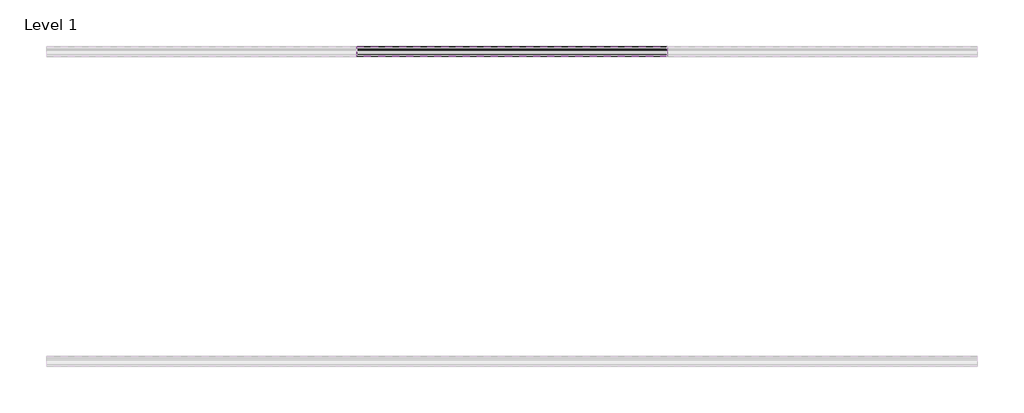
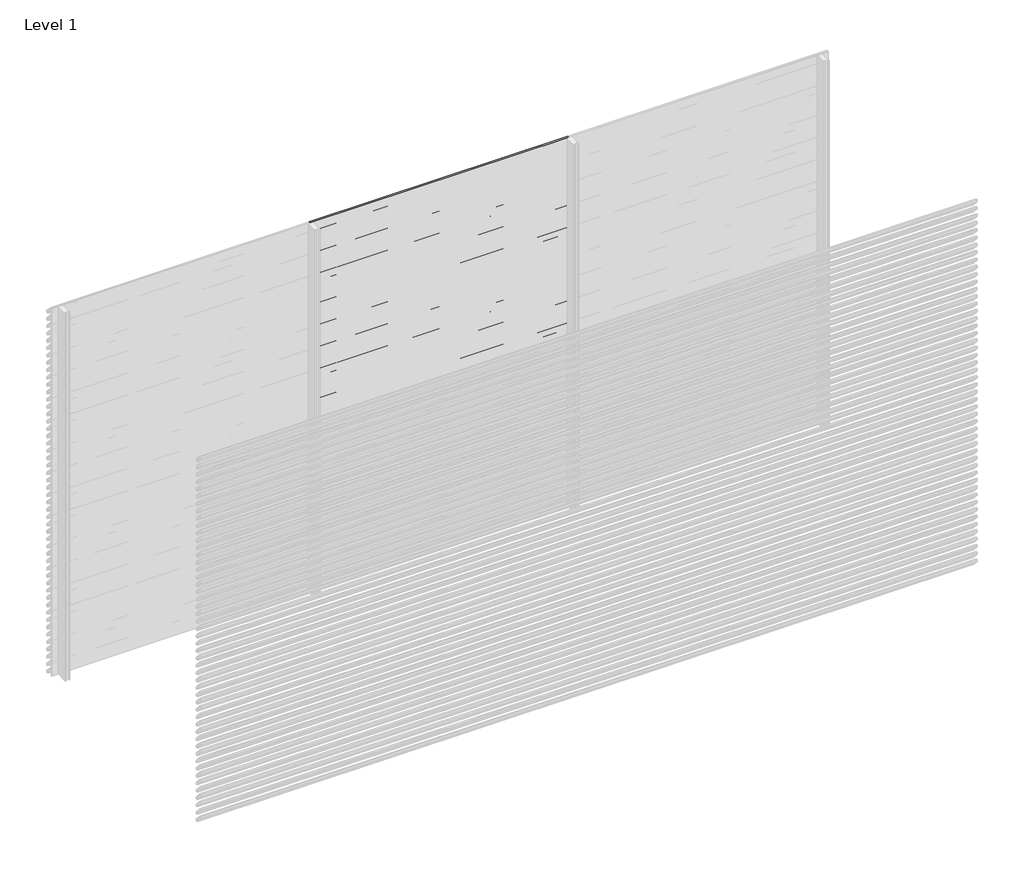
# One storey, part 111 of 153: 33 proxies.
"""IFC4 building model written with IfcOpenShell, lengths in millimetres."""

from ifc_helpers import new_model, si_unit, point, frame, frame_2d, origin, place, context, project, spatial, polyline, circle_curve, trimmed, segment, composite_curve, outline, extrude, element, save

model = new_model("IFC4")

# Units and contexts
model_context = context("Model", 3, world=origin())
ifc_project = project(units=[si_unit("LENGTHUNIT", "METRE", prefix="MILLI")], contexts=[model_context])

# Site, building, storey
site = spatial("IfcSite", under=ifc_project)
building = spatial("IfcBuilding", under=site)
storey = spatial("IfcBuildingStorey", under=building, Name="Level 1", Elevation=0.0)

# Proxies
placement = place(None, origin())
element("IfcBuildingElementProxy", 1, Name="Wall Sweeps", at=placement, inside=storey, context=model_context, shape_type="SweptSolid", body=[
    extrude(outline(composite_curve([segment(polyline([(51485.0540136, 3000.0), (51499.874191, 2998.7034025), (51549.0540136, 2945.0102749), (51549.0540136, 2933.6108187)]), True, "CONTINUOUS"), segment(trimmed(circle_curve(frame_2d((51545.7883652, 2933.897153)), 3.2781774), [point((51549.0540136, 2933.6108187))], [point((51546.4639442, 2930.6893438))], False, "CARTESIAN"), True, "CONTINUOUS"), segment(polyline([(51546.4639442, 2930.6893438), (51534.1895723, 2931.6282758), (51485.0540136, 2985.2730773), (51485.0540136, 3000.0)]), True, "CONTINUOUS")], self_intersect=False), holes=[composite_curve([segment(polyline([(51499.1621773, 2997.2599659), (51486.5540136, 2998.3630372), (51486.5540136, 2985.856213), (51534.8952036, 2933.0786805), (51546.3312542, 2932.2038762)]), True, "CONTINUOUS"), segment(trimmed(circle_curve(frame_2d((51545.7883652, 2933.897153)), 1.7781774), [point((51546.3312542, 2932.2038762))], [point((51547.5540136, 2933.6864389))], True, "CARTESIAN"), True, "CONTINUOUS"), segment(polyline([(51547.5540136, 2933.6864389), (51547.5540136, 2944.4271392), (51499.1621773, 2997.2599659)]), True, "CONTINUOUS")], self_intersect=False)]), frame((46966.6208098, 0.0, 0.0), z_axis=(1.0, 0.0, 0.0), x_axis=(0.0, 1.0, 0.0)), (0.0, 0.0, 1.0), 1999.9999998),
])
element("IfcBuildingElementProxy", 2, Name="Wall Sweeps", at=placement, inside=storey, context=model_context, shape_type="SweptSolid", body=[
    extrude(outline(composite_curve([segment(polyline([(51485.0540136, 2940.0), (51499.874191, 2938.7034025), (51549.0540136, 2885.0102749), (51549.0540136, 2873.6108187)]), True, "CONTINUOUS"), segment(trimmed(circle_curve(frame_2d((51545.7883652, 2873.897153)), 3.2781774), [point((51549.0540136, 2873.6108187))], [point((51546.4639442, 2870.6893438))], False, "CARTESIAN"), True, "CONTINUOUS"), segment(polyline([(51546.4639442, 2870.6893438), (51534.1895723, 2871.6282758), (51485.0540136, 2925.2730773), (51485.0540136, 2940.0)]), True, "CONTINUOUS")], self_intersect=False), holes=[composite_curve([segment(polyline([(51499.1621773, 2937.2599659), (51486.5540136, 2938.3630372), (51486.5540136, 2925.856213), (51534.8952036, 2873.0786805), (51546.3312542, 2872.2038762)]), True, "CONTINUOUS"), segment(trimmed(circle_curve(frame_2d((51545.7883652, 2873.897153)), 1.7781774), [point((51546.3312542, 2872.2038762))], [point((51547.5540136, 2873.6864389))], True, "CARTESIAN"), True, "CONTINUOUS"), segment(polyline([(51547.5540136, 2873.6864389), (51547.5540136, 2884.4271392), (51499.1621773, 2937.2599659)]), True, "CONTINUOUS")], self_intersect=False)]), frame((46966.6208098, 0.0, 0.0), z_axis=(1.0, 0.0, 0.0), x_axis=(0.0, 1.0, 0.0)), (0.0, 0.0, 1.0), 1999.9999998),
])
element("IfcBuildingElementProxy", 3, Name="Wall Sweeps", at=placement, inside=storey, context=model_context, shape_type="SweptSolid", body=[
    extrude(outline(composite_curve([segment(polyline([(51485.0540136, 2880.0), (51499.874191, 2878.7034025), (51549.0540136, 2825.0102749), (51549.0540136, 2813.6108187)]), True, "CONTINUOUS"), segment(trimmed(circle_curve(frame_2d((51545.7883652, 2813.897153)), 3.2781774), [point((51549.0540136, 2813.6108187))], [point((51546.4639442, 2810.6893438))], False, "CARTESIAN"), True, "CONTINUOUS"), segment(polyline([(51546.4639442, 2810.6893438), (51534.1895723, 2811.6282758), (51485.0540136, 2865.2730773), (51485.0540136, 2880.0)]), True, "CONTINUOUS")], self_intersect=False), holes=[composite_curve([segment(polyline([(51499.1621773, 2877.2599659), (51486.5540136, 2878.3630372), (51486.5540136, 2865.856213), (51534.8952036, 2813.0786805), (51546.3312542, 2812.2038762)]), True, "CONTINUOUS"), segment(trimmed(circle_curve(frame_2d((51545.7883652, 2813.897153)), 1.7781774), [point((51546.3312542, 2812.2038762))], [point((51547.5540136, 2813.6864389))], True, "CARTESIAN"), True, "CONTINUOUS"), segment(polyline([(51547.5540136, 2813.6864389), (51547.5540136, 2824.4271392), (51499.1621773, 2877.2599659)]), True, "CONTINUOUS")], self_intersect=False)]), frame((46966.6208098, 0.0, 0.0), z_axis=(1.0, 0.0, 0.0), x_axis=(0.0, 1.0, 0.0)), (0.0, 0.0, 1.0), 1999.9999998),
])
element("IfcBuildingElementProxy", 4, Name="Wall Sweeps", at=placement, inside=storey, context=model_context, shape_type="SweptSolid", body=[
    extrude(outline(composite_curve([segment(polyline([(51485.0540136, 2820.0), (51499.874191, 2818.7034025), (51549.0540136, 2765.0102749), (51549.0540136, 2753.6108187)]), True, "CONTINUOUS"), segment(trimmed(circle_curve(frame_2d((51545.7883652, 2753.897153)), 3.2781774), [point((51549.0540136, 2753.6108187))], [point((51546.4639442, 2750.6893438))], False, "CARTESIAN"), True, "CONTINUOUS"), segment(polyline([(51546.4639442, 2750.6893438), (51534.1895723, 2751.6282758), (51485.0540136, 2805.2730773), (51485.0540136, 2820.0)]), True, "CONTINUOUS")], self_intersect=False), holes=[composite_curve([segment(polyline([(51499.1621773, 2817.2599659), (51486.5540136, 2818.3630372), (51486.5540136, 2805.856213), (51534.8952036, 2753.0786805), (51546.3312542, 2752.2038762)]), True, "CONTINUOUS"), segment(trimmed(circle_curve(frame_2d((51545.7883652, 2753.897153)), 1.7781774), [point((51546.3312542, 2752.2038762))], [point((51547.5540136, 2753.6864389))], True, "CARTESIAN"), True, "CONTINUOUS"), segment(polyline([(51547.5540136, 2753.6864389), (51547.5540136, 2764.4271392), (51499.1621773, 2817.2599659)]), True, "CONTINUOUS")], self_intersect=False)]), frame((46966.6208098, 0.0, 0.0), z_axis=(1.0, 0.0, 0.0), x_axis=(0.0, 1.0, 0.0)), (0.0, 0.0, 1.0), 1999.9999998),
])
element("IfcBuildingElementProxy", 5, Name="Wall Sweeps", at=placement, inside=storey, context=model_context, shape_type="SweptSolid", body=[
    extrude(outline(composite_curve([segment(polyline([(51485.0540136, 2760.0), (51499.874191, 2758.7034025), (51549.0540136, 2705.0102749), (51549.0540136, 2693.6108187)]), True, "CONTINUOUS"), segment(trimmed(circle_curve(frame_2d((51545.7883652, 2693.897153)), 3.2781774), [point((51549.0540136, 2693.6108187))], [point((51546.4639442, 2690.6893438))], False, "CARTESIAN"), True, "CONTINUOUS"), segment(polyline([(51546.4639442, 2690.6893438), (51534.1895723, 2691.6282758), (51485.0540136, 2745.2730773), (51485.0540136, 2760.0)]), True, "CONTINUOUS")], self_intersect=False), holes=[composite_curve([segment(polyline([(51499.1621773, 2757.2599659), (51486.5540136, 2758.3630372), (51486.5540136, 2745.856213), (51534.8952036, 2693.0786805), (51546.3312542, 2692.2038762)]), True, "CONTINUOUS"), segment(trimmed(circle_curve(frame_2d((51545.7883652, 2693.897153)), 1.7781774), [point((51546.3312542, 2692.2038762))], [point((51547.5540136, 2693.6864389))], True, "CARTESIAN"), True, "CONTINUOUS"), segment(polyline([(51547.5540136, 2693.6864389), (51547.5540136, 2704.4271392), (51499.1621773, 2757.2599659)]), True, "CONTINUOUS")], self_intersect=False)]), frame((46966.6208098, 0.0, 0.0), z_axis=(1.0, 0.0, 0.0), x_axis=(0.0, 1.0, 0.0)), (0.0, 0.0, 1.0), 1999.9999998),
])
element("IfcBuildingElementProxy", 6, Name="Wall Sweeps", at=placement, inside=storey, context=model_context, shape_type="SweptSolid", body=[
    extrude(outline(composite_curve([segment(polyline([(51485.0540136, 2700.0), (51499.874191, 2698.7034025), (51549.0540136, 2645.0102749), (51549.0540136, 2633.6108187)]), True, "CONTINUOUS"), segment(trimmed(circle_curve(frame_2d((51545.7883652, 2633.897153)), 3.2781774), [point((51549.0540136, 2633.6108187))], [point((51546.4639442, 2630.6893438))], False, "CARTESIAN"), True, "CONTINUOUS"), segment(polyline([(51546.4639442, 2630.6893438), (51534.1895723, 2631.6282758), (51485.0540136, 2685.2730773), (51485.0540136, 2700.0)]), True, "CONTINUOUS")], self_intersect=False), holes=[composite_curve([segment(polyline([(51499.1621773, 2697.2599659), (51486.5540136, 2698.3630372), (51486.5540136, 2685.856213), (51534.8952036, 2633.0786805), (51546.3312542, 2632.2038762)]), True, "CONTINUOUS"), segment(trimmed(circle_curve(frame_2d((51545.7883652, 2633.897153)), 1.7781774), [point((51546.3312542, 2632.2038762))], [point((51547.5540136, 2633.6864389))], True, "CARTESIAN"), True, "CONTINUOUS"), segment(polyline([(51547.5540136, 2633.6864389), (51547.5540136, 2644.4271392), (51499.1621773, 2697.2599659)]), True, "CONTINUOUS")], self_intersect=False)]), frame((46966.6208098, 0.0, 0.0), z_axis=(1.0, 0.0, 0.0), x_axis=(0.0, 1.0, 0.0)), (0.0, 0.0, 1.0), 1999.9999998),
])
element("IfcBuildingElementProxy", 7, Name="Wall Sweeps", at=placement, inside=storey, context=model_context, shape_type="SweptSolid", body=[
    extrude(outline(composite_curve([segment(polyline([(51485.0540136, 2640.0), (51499.874191, 2638.7034025), (51549.0540136, 2585.0102749), (51549.0540136, 2573.6108187)]), True, "CONTINUOUS"), segment(trimmed(circle_curve(frame_2d((51545.7883652, 2573.897153)), 3.2781774), [point((51549.0540136, 2573.6108187))], [point((51546.4639442, 2570.6893438))], False, "CARTESIAN"), True, "CONTINUOUS"), segment(polyline([(51546.4639442, 2570.6893438), (51534.1895723, 2571.6282758), (51485.0540136, 2625.2730773), (51485.0540136, 2640.0)]), True, "CONTINUOUS")], self_intersect=False), holes=[composite_curve([segment(polyline([(51499.1621773, 2637.2599659), (51486.5540136, 2638.3630372), (51486.5540136, 2625.856213), (51534.8952036, 2573.0786805), (51546.3312542, 2572.2038762)]), True, "CONTINUOUS"), segment(trimmed(circle_curve(frame_2d((51545.7883652, 2573.897153)), 1.7781774), [point((51546.3312542, 2572.2038762))], [point((51547.5540136, 2573.6864389))], True, "CARTESIAN"), True, "CONTINUOUS"), segment(polyline([(51547.5540136, 2573.6864389), (51547.5540136, 2584.4271392), (51499.1621773, 2637.2599659)]), True, "CONTINUOUS")], self_intersect=False)]), frame((46966.6208098, 0.0, 0.0), z_axis=(1.0, 0.0, 0.0), x_axis=(0.0, 1.0, 0.0)), (0.0, 0.0, 1.0), 1999.9999998),
])
element("IfcBuildingElementProxy", 8, Name="Wall Sweeps", at=placement, inside=storey, context=model_context, shape_type="SweptSolid", body=[
    extrude(outline(composite_curve([segment(polyline([(51485.0540136, 2580.0), (51499.874191, 2578.7034025), (51549.0540136, 2525.0102749), (51549.0540136, 2513.6108187)]), True, "CONTINUOUS"), segment(trimmed(circle_curve(frame_2d((51545.7883652, 2513.897153)), 3.2781774), [point((51549.0540136, 2513.6108187))], [point((51546.4639442, 2510.6893438))], False, "CARTESIAN"), True, "CONTINUOUS"), segment(polyline([(51546.4639442, 2510.6893438), (51534.1895723, 2511.6282758), (51485.0540136, 2565.2730773), (51485.0540136, 2580.0)]), True, "CONTINUOUS")], self_intersect=False), holes=[composite_curve([segment(polyline([(51499.1621773, 2577.2599659), (51486.5540136, 2578.3630372), (51486.5540136, 2565.856213), (51534.8952036, 2513.0786805), (51546.3312542, 2512.2038762)]), True, "CONTINUOUS"), segment(trimmed(circle_curve(frame_2d((51545.7883652, 2513.897153)), 1.7781774), [point((51546.3312542, 2512.2038762))], [point((51547.5540136, 2513.6864389))], True, "CARTESIAN"), True, "CONTINUOUS"), segment(polyline([(51547.5540136, 2513.6864389), (51547.5540136, 2524.4271392), (51499.1621773, 2577.2599659)]), True, "CONTINUOUS")], self_intersect=False)]), frame((46966.6208098, 0.0, 0.0), z_axis=(1.0, 0.0, 0.0), x_axis=(0.0, 1.0, 0.0)), (0.0, 0.0, 1.0), 1999.9999998),
])
element("IfcBuildingElementProxy", 9, Name="Wall Sweeps", at=placement, inside=storey, context=model_context, shape_type="SweptSolid", body=[
    extrude(outline(composite_curve([segment(polyline([(51485.0540136, 2520.0), (51499.874191, 2518.7034025), (51549.0540136, 2465.0102749), (51549.0540136, 2453.6108187)]), True, "CONTINUOUS"), segment(trimmed(circle_curve(frame_2d((51545.7883652, 2453.897153)), 3.2781774), [point((51549.0540136, 2453.6108187))], [point((51546.4639442, 2450.6893438))], False, "CARTESIAN"), True, "CONTINUOUS"), segment(polyline([(51546.4639442, 2450.6893438), (51534.1895723, 2451.6282758), (51485.0540136, 2505.2730773), (51485.0540136, 2520.0)]), True, "CONTINUOUS")], self_intersect=False), holes=[composite_curve([segment(polyline([(51499.1621773, 2517.2599659), (51486.5540136, 2518.3630372), (51486.5540136, 2505.856213), (51534.8952036, 2453.0786805), (51546.3312542, 2452.2038762)]), True, "CONTINUOUS"), segment(trimmed(circle_curve(frame_2d((51545.7883652, 2453.897153)), 1.7781774), [point((51546.3312542, 2452.2038762))], [point((51547.5540136, 2453.6864389))], True, "CARTESIAN"), True, "CONTINUOUS"), segment(polyline([(51547.5540136, 2453.6864389), (51547.5540136, 2464.4271392), (51499.1621773, 2517.2599659)]), True, "CONTINUOUS")], self_intersect=False)]), frame((46966.6208098, 0.0, 0.0), z_axis=(1.0, 0.0, 0.0), x_axis=(0.0, 1.0, 0.0)), (0.0, 0.0, 1.0), 1999.9999998),
])
element("IfcBuildingElementProxy", 10, Name="Wall Sweeps", at=placement, inside=storey, context=model_context, shape_type="SweptSolid", body=[
    extrude(outline(composite_curve([segment(polyline([(51485.0540136, 2460.0), (51499.874191, 2458.7034025), (51549.0540136, 2405.0102749), (51549.0540136, 2393.6108187)]), True, "CONTINUOUS"), segment(trimmed(circle_curve(frame_2d((51545.7883652, 2393.897153)), 3.2781774), [point((51549.0540136, 2393.6108187))], [point((51546.4639442, 2390.6893438))], False, "CARTESIAN"), True, "CONTINUOUS"), segment(polyline([(51546.4639442, 2390.6893438), (51534.1895723, 2391.6282758), (51485.0540136, 2445.2730773), (51485.0540136, 2460.0)]), True, "CONTINUOUS")], self_intersect=False), holes=[composite_curve([segment(polyline([(51499.1621773, 2457.2599659), (51486.5540136, 2458.3630372), (51486.5540136, 2445.856213), (51534.8952036, 2393.0786805), (51546.3312542, 2392.2038762)]), True, "CONTINUOUS"), segment(trimmed(circle_curve(frame_2d((51545.7883652, 2393.897153)), 1.7781774), [point((51546.3312542, 2392.2038762))], [point((51547.5540136, 2393.6864389))], True, "CARTESIAN"), True, "CONTINUOUS"), segment(polyline([(51547.5540136, 2393.6864389), (51547.5540136, 2404.4271392), (51499.1621773, 2457.2599659)]), True, "CONTINUOUS")], self_intersect=False)]), frame((46966.6208098, 0.0, 0.0), z_axis=(1.0, 0.0, 0.0), x_axis=(0.0, 1.0, 0.0)), (0.0, 0.0, 1.0), 1999.9999998),
])
element("IfcBuildingElementProxy", 11, Name="Wall Sweeps", at=placement, inside=storey, context=model_context, shape_type="SweptSolid", body=[
    extrude(outline(composite_curve([segment(polyline([(51485.0540136, 2400.0), (51499.874191, 2398.7034025), (51549.0540136, 2345.0102749), (51549.0540136, 2333.6108187)]), True, "CONTINUOUS"), segment(trimmed(circle_curve(frame_2d((51545.7883652, 2333.897153)), 3.2781774), [point((51549.0540136, 2333.6108187))], [point((51546.4639442, 2330.6893438))], False, "CARTESIAN"), True, "CONTINUOUS"), segment(polyline([(51546.4639442, 2330.6893438), (51534.1895723, 2331.6282758), (51485.0540136, 2385.2730773), (51485.0540136, 2400.0)]), True, "CONTINUOUS")], self_intersect=False), holes=[composite_curve([segment(polyline([(51499.1621773, 2397.2599659), (51486.5540136, 2398.3630372), (51486.5540136, 2385.856213), (51534.8952036, 2333.0786805), (51546.3312542, 2332.2038762)]), True, "CONTINUOUS"), segment(trimmed(circle_curve(frame_2d((51545.7883652, 2333.897153)), 1.7781774), [point((51546.3312542, 2332.2038762))], [point((51547.5540136, 2333.6864389))], True, "CARTESIAN"), True, "CONTINUOUS"), segment(polyline([(51547.5540136, 2333.6864389), (51547.5540136, 2344.4271392), (51499.1621773, 2397.2599659)]), True, "CONTINUOUS")], self_intersect=False)]), frame((46966.6208098, 0.0, 0.0), z_axis=(1.0, 0.0, 0.0), x_axis=(0.0, 1.0, 0.0)), (0.0, 0.0, 1.0), 1999.9999998),
])
element("IfcBuildingElementProxy", 12, Name="Wall Sweeps", at=placement, inside=storey, context=model_context, shape_type="SweptSolid", body=[
    extrude(outline(composite_curve([segment(polyline([(51485.0540136, 2340.0), (51499.874191, 2338.7034025), (51549.0540136, 2285.0102749), (51549.0540136, 2273.6108187)]), True, "CONTINUOUS"), segment(trimmed(circle_curve(frame_2d((51545.7883652, 2273.897153)), 3.2781774), [point((51549.0540136, 2273.6108187))], [point((51546.4639442, 2270.6893438))], False, "CARTESIAN"), True, "CONTINUOUS"), segment(polyline([(51546.4639442, 2270.6893438), (51534.1895723, 2271.6282758), (51485.0540136, 2325.2730773), (51485.0540136, 2340.0)]), True, "CONTINUOUS")], self_intersect=False), holes=[composite_curve([segment(polyline([(51499.1621773, 2337.2599659), (51486.5540136, 2338.3630372), (51486.5540136, 2325.856213), (51534.8952036, 2273.0786805), (51546.3312542, 2272.2038762)]), True, "CONTINUOUS"), segment(trimmed(circle_curve(frame_2d((51545.7883652, 2273.897153)), 1.7781774), [point((51546.3312542, 2272.2038762))], [point((51547.5540136, 2273.6864389))], True, "CARTESIAN"), True, "CONTINUOUS"), segment(polyline([(51547.5540136, 2273.6864389), (51547.5540136, 2284.4271392), (51499.1621773, 2337.2599659)]), True, "CONTINUOUS")], self_intersect=False)]), frame((46966.6208098, 0.0, 0.0), z_axis=(1.0, 0.0, 0.0), x_axis=(0.0, 1.0, 0.0)), (0.0, 0.0, 1.0), 1999.9999998),
])
element("IfcBuildingElementProxy", 13, Name="Wall Sweeps", at=placement, inside=storey, context=model_context, shape_type="SweptSolid", body=[
    extrude(outline(composite_curve([segment(polyline([(51485.0540136, 2280.0), (51499.874191, 2278.7034025), (51549.0540136, 2225.0102749), (51549.0540136, 2213.6108187)]), True, "CONTINUOUS"), segment(trimmed(circle_curve(frame_2d((51545.7883652, 2213.897153)), 3.2781774), [point((51549.0540136, 2213.6108187))], [point((51546.4639442, 2210.6893438))], False, "CARTESIAN"), True, "CONTINUOUS"), segment(polyline([(51546.4639442, 2210.6893438), (51534.1895723, 2211.6282758), (51485.0540136, 2265.2730773), (51485.0540136, 2280.0)]), True, "CONTINUOUS")], self_intersect=False), holes=[composite_curve([segment(polyline([(51499.1621773, 2277.2599659), (51486.5540136, 2278.3630372), (51486.5540136, 2265.856213), (51534.8952036, 2213.0786805), (51546.3312542, 2212.2038762)]), True, "CONTINUOUS"), segment(trimmed(circle_curve(frame_2d((51545.7883652, 2213.897153)), 1.7781774), [point((51546.3312542, 2212.2038762))], [point((51547.5540136, 2213.6864389))], True, "CARTESIAN"), True, "CONTINUOUS"), segment(polyline([(51547.5540136, 2213.6864389), (51547.5540136, 2224.4271392), (51499.1621773, 2277.2599659)]), True, "CONTINUOUS")], self_intersect=False)]), frame((46966.6208098, 0.0, 0.0), z_axis=(1.0, 0.0, 0.0), x_axis=(0.0, 1.0, 0.0)), (0.0, 0.0, 1.0), 1999.9999998),
])
element("IfcBuildingElementProxy", 14, Name="Wall Sweeps", at=placement, inside=storey, context=model_context, shape_type="SweptSolid", body=[
    extrude(outline(composite_curve([segment(polyline([(51485.0540136, 2220.0), (51499.874191, 2218.7034025), (51549.0540136, 2165.0102749), (51549.0540136, 2153.6108187)]), True, "CONTINUOUS"), segment(trimmed(circle_curve(frame_2d((51545.7883652, 2153.897153)), 3.2781774), [point((51549.0540136, 2153.6108187))], [point((51546.4639442, 2150.6893438))], False, "CARTESIAN"), True, "CONTINUOUS"), segment(polyline([(51546.4639442, 2150.6893438), (51534.1895723, 2151.6282758), (51485.0540136, 2205.2730773), (51485.0540136, 2220.0)]), True, "CONTINUOUS")], self_intersect=False), holes=[composite_curve([segment(polyline([(51499.1621773, 2217.2599659), (51486.5540136, 2218.3630372), (51486.5540136, 2205.856213), (51534.8952036, 2153.0786805), (51546.3312542, 2152.2038762)]), True, "CONTINUOUS"), segment(trimmed(circle_curve(frame_2d((51545.7883652, 2153.897153)), 1.7781774), [point((51546.3312542, 2152.2038762))], [point((51547.5540136, 2153.6864389))], True, "CARTESIAN"), True, "CONTINUOUS"), segment(polyline([(51547.5540136, 2153.6864389), (51547.5540136, 2164.4271392), (51499.1621773, 2217.2599659)]), True, "CONTINUOUS")], self_intersect=False)]), frame((46966.6208098, 0.0, 0.0), z_axis=(1.0, 0.0, 0.0), x_axis=(0.0, 1.0, 0.0)), (0.0, 0.0, 1.0), 1999.9999998),
])
element("IfcBuildingElementProxy", 15, Name="Wall Sweeps", at=placement, inside=storey, context=model_context, shape_type="SweptSolid", body=[
    extrude(outline(composite_curve([segment(polyline([(51485.0540136, 2160.0), (51499.874191, 2158.7034025), (51549.0540136, 2105.0102749), (51549.0540136, 2093.6108187)]), True, "CONTINUOUS"), segment(trimmed(circle_curve(frame_2d((51545.7883652, 2093.897153)), 3.2781774), [point((51549.0540136, 2093.6108187))], [point((51546.4639442, 2090.6893438))], False, "CARTESIAN"), True, "CONTINUOUS"), segment(polyline([(51546.4639442, 2090.6893438), (51534.1895723, 2091.6282758), (51485.0540136, 2145.2730773), (51485.0540136, 2160.0)]), True, "CONTINUOUS")], self_intersect=False), holes=[composite_curve([segment(polyline([(51499.1621773, 2157.2599659), (51486.5540136, 2158.3630372), (51486.5540136, 2145.856213), (51534.8952036, 2093.0786805), (51546.3312542, 2092.2038762)]), True, "CONTINUOUS"), segment(trimmed(circle_curve(frame_2d((51545.7883652, 2093.897153)), 1.7781774), [point((51546.3312542, 2092.2038762))], [point((51547.5540136, 2093.6864389))], True, "CARTESIAN"), True, "CONTINUOUS"), segment(polyline([(51547.5540136, 2093.6864389), (51547.5540136, 2104.4271392), (51499.1621773, 2157.2599659)]), True, "CONTINUOUS")], self_intersect=False)]), frame((46966.6208098, 0.0, 0.0), z_axis=(1.0, 0.0, 0.0), x_axis=(0.0, 1.0, 0.0)), (0.0, 0.0, 1.0), 1999.9999998),
])
element("IfcBuildingElementProxy", 16, Name="Wall Sweeps", at=placement, inside=storey, context=model_context, shape_type="SweptSolid", body=[
    extrude(outline(composite_curve([segment(polyline([(51485.0540136, 2100.0), (51499.874191, 2098.7034025), (51549.0540136, 2045.0102749), (51549.0540136, 2033.6108187)]), True, "CONTINUOUS"), segment(trimmed(circle_curve(frame_2d((51545.7883652, 2033.897153)), 3.2781774), [point((51549.0540136, 2033.6108187))], [point((51546.4639442, 2030.6893438))], False, "CARTESIAN"), True, "CONTINUOUS"), segment(polyline([(51546.4639442, 2030.6893438), (51534.1895723, 2031.6282758), (51485.0540136, 2085.2730773), (51485.0540136, 2100.0)]), True, "CONTINUOUS")], self_intersect=False), holes=[composite_curve([segment(polyline([(51499.1621773, 2097.2599659), (51486.5540136, 2098.3630372), (51486.5540136, 2085.856213), (51534.8952036, 2033.0786805), (51546.3312542, 2032.2038762)]), True, "CONTINUOUS"), segment(trimmed(circle_curve(frame_2d((51545.7883652, 2033.897153)), 1.7781774), [point((51546.3312542, 2032.2038762))], [point((51547.5540136, 2033.6864389))], True, "CARTESIAN"), True, "CONTINUOUS"), segment(polyline([(51547.5540136, 2033.6864389), (51547.5540136, 2044.4271392), (51499.1621773, 2097.2599659)]), True, "CONTINUOUS")], self_intersect=False)]), frame((46966.6208098, 0.0, 0.0), z_axis=(1.0, 0.0, 0.0), x_axis=(0.0, 1.0, 0.0)), (0.0, 0.0, 1.0), 1999.9999998),
])
element("IfcBuildingElementProxy", 17, Name="Wall Sweeps", at=placement, inside=storey, context=model_context, shape_type="SweptSolid", body=[
    extrude(outline(composite_curve([segment(polyline([(51485.0540136, 2040.0), (51499.874191, 2038.7034025), (51549.0540136, 1985.0102749), (51549.0540136, 1973.6108187)]), True, "CONTINUOUS"), segment(trimmed(circle_curve(frame_2d((51545.7883652, 1973.897153)), 3.2781774), [point((51549.0540136, 1973.6108187))], [point((51546.4639442, 1970.6893438))], False, "CARTESIAN"), True, "CONTINUOUS"), segment(polyline([(51546.4639442, 1970.6893438), (51534.1895723, 1971.6282758), (51485.0540136, 2025.2730773), (51485.0540136, 2040.0)]), True, "CONTINUOUS")], self_intersect=False), holes=[composite_curve([segment(polyline([(51499.1621773, 2037.2599659), (51486.5540136, 2038.3630372), (51486.5540136, 2025.856213), (51534.8952036, 1973.0786805), (51546.3312542, 1972.2038762)]), True, "CONTINUOUS"), segment(trimmed(circle_curve(frame_2d((51545.7883652, 1973.897153)), 1.7781774), [point((51546.3312542, 1972.2038762))], [point((51547.5540136, 1973.6864389))], True, "CARTESIAN"), True, "CONTINUOUS"), segment(polyline([(51547.5540136, 1973.6864389), (51547.5540136, 1984.4271392), (51499.1621773, 2037.2599659)]), True, "CONTINUOUS")], self_intersect=False)]), frame((46966.6208098, 0.0, 0.0), z_axis=(1.0, 0.0, 0.0), x_axis=(0.0, 1.0, 0.0)), (0.0, 0.0, 1.0), 1999.9999998),
])
element("IfcBuildingElementProxy", 18, Name="Wall Sweeps", at=placement, inside=storey, context=model_context, shape_type="SweptSolid", body=[
    extrude(outline(composite_curve([segment(polyline([(51485.0540136, 1980.0), (51499.874191, 1978.7034025), (51549.0540136, 1925.0102749), (51549.0540136, 1913.6108187)]), True, "CONTINUOUS"), segment(trimmed(circle_curve(frame_2d((51545.7883652, 1913.897153)), 3.2781774), [point((51549.0540136, 1913.6108187))], [point((51546.4639442, 1910.6893438))], False, "CARTESIAN"), True, "CONTINUOUS"), segment(polyline([(51546.4639442, 1910.6893438), (51534.1895723, 1911.6282758), (51485.0540136, 1965.2730773), (51485.0540136, 1980.0)]), True, "CONTINUOUS")], self_intersect=False), holes=[composite_curve([segment(polyline([(51499.1621773, 1977.2599659), (51486.5540136, 1978.3630372), (51486.5540136, 1965.856213), (51534.8952036, 1913.0786805), (51546.3312542, 1912.2038762)]), True, "CONTINUOUS"), segment(trimmed(circle_curve(frame_2d((51545.7883652, 1913.897153)), 1.7781774), [point((51546.3312542, 1912.2038762))], [point((51547.5540136, 1913.6864389))], True, "CARTESIAN"), True, "CONTINUOUS"), segment(polyline([(51547.5540136, 1913.6864389), (51547.5540136, 1924.4271392), (51499.1621773, 1977.2599659)]), True, "CONTINUOUS")], self_intersect=False)]), frame((46966.6208098, 0.0, 0.0), z_axis=(1.0, 0.0, 0.0), x_axis=(0.0, 1.0, 0.0)), (0.0, 0.0, 1.0), 1999.9999998),
])
element("IfcBuildingElementProxy", 19, Name="Wall Sweeps", at=placement, inside=storey, context=model_context, shape_type="SweptSolid", body=[
    extrude(outline(composite_curve([segment(polyline([(51485.0540136, 1920.0), (51499.874191, 1918.7034025), (51549.0540136, 1865.0102749), (51549.0540136, 1853.6108187)]), True, "CONTINUOUS"), segment(trimmed(circle_curve(frame_2d((51545.7883652, 1853.897153)), 3.2781774), [point((51549.0540136, 1853.6108187))], [point((51546.4639442, 1850.6893438))], False, "CARTESIAN"), True, "CONTINUOUS"), segment(polyline([(51546.4639442, 1850.6893438), (51534.1895723, 1851.6282758), (51485.0540136, 1905.2730773), (51485.0540136, 1920.0)]), True, "CONTINUOUS")], self_intersect=False), holes=[composite_curve([segment(polyline([(51499.1621773, 1917.2599659), (51486.5540136, 1918.3630372), (51486.5540136, 1905.856213), (51534.8952036, 1853.0786805), (51546.3312542, 1852.2038762)]), True, "CONTINUOUS"), segment(trimmed(circle_curve(frame_2d((51545.7883652, 1853.897153)), 1.7781774), [point((51546.3312542, 1852.2038762))], [point((51547.5540136, 1853.6864389))], True, "CARTESIAN"), True, "CONTINUOUS"), segment(polyline([(51547.5540136, 1853.6864389), (51547.5540136, 1864.4271392), (51499.1621773, 1917.2599659)]), True, "CONTINUOUS")], self_intersect=False)]), frame((46966.6208098, 0.0, 0.0), z_axis=(1.0, 0.0, 0.0), x_axis=(0.0, 1.0, 0.0)), (0.0, 0.0, 1.0), 1999.9999998),
])
element("IfcBuildingElementProxy", 20, Name="Wall Sweeps", at=placement, inside=storey, context=model_context, shape_type="SweptSolid", body=[
    extrude(outline(composite_curve([segment(polyline([(51485.0540136, 1860.0), (51499.874191, 1858.7034025), (51549.0540136, 1805.0102749), (51549.0540136, 1793.6108187)]), True, "CONTINUOUS"), segment(trimmed(circle_curve(frame_2d((51545.7883652, 1793.897153)), 3.2781774), [point((51549.0540136, 1793.6108187))], [point((51546.4639442, 1790.6893438))], False, "CARTESIAN"), True, "CONTINUOUS"), segment(polyline([(51546.4639442, 1790.6893438), (51534.1895723, 1791.6282758), (51485.0540136, 1845.2730773), (51485.0540136, 1860.0)]), True, "CONTINUOUS")], self_intersect=False), holes=[composite_curve([segment(polyline([(51499.1621773, 1857.2599659), (51486.5540136, 1858.3630372), (51486.5540136, 1845.856213), (51534.8952036, 1793.0786805), (51546.3312542, 1792.2038762)]), True, "CONTINUOUS"), segment(trimmed(circle_curve(frame_2d((51545.7883652, 1793.897153)), 1.7781774), [point((51546.3312542, 1792.2038762))], [point((51547.5540136, 1793.6864389))], True, "CARTESIAN"), True, "CONTINUOUS"), segment(polyline([(51547.5540136, 1793.6864389), (51547.5540136, 1804.4271392), (51499.1621773, 1857.2599659)]), True, "CONTINUOUS")], self_intersect=False)]), frame((46966.6208098, 0.0, 0.0), z_axis=(1.0, 0.0, 0.0), x_axis=(0.0, 1.0, 0.0)), (0.0, 0.0, 1.0), 1999.9999998),
])
element("IfcBuildingElementProxy", 21, Name="Wall Sweeps", at=placement, inside=storey, context=model_context, shape_type="SweptSolid", body=[
    extrude(outline(composite_curve([segment(polyline([(51485.0540136, 1800.0), (51499.874191, 1798.7034025), (51549.0540136, 1745.0102749), (51549.0540136, 1733.6108187)]), True, "CONTINUOUS"), segment(trimmed(circle_curve(frame_2d((51545.7883652, 1733.897153)), 3.2781774), [point((51549.0540136, 1733.6108187))], [point((51546.4639442, 1730.6893438))], False, "CARTESIAN"), True, "CONTINUOUS"), segment(polyline([(51546.4639442, 1730.6893438), (51534.1895723, 1731.6282758), (51485.0540136, 1785.2730773), (51485.0540136, 1800.0)]), True, "CONTINUOUS")], self_intersect=False), holes=[composite_curve([segment(polyline([(51499.1621773, 1797.2599659), (51486.5540136, 1798.3630372), (51486.5540136, 1785.856213), (51534.8952036, 1733.0786805), (51546.3312542, 1732.2038762)]), True, "CONTINUOUS"), segment(trimmed(circle_curve(frame_2d((51545.7883652, 1733.897153)), 1.7781774), [point((51546.3312542, 1732.2038762))], [point((51547.5540136, 1733.6864389))], True, "CARTESIAN"), True, "CONTINUOUS"), segment(polyline([(51547.5540136, 1733.6864389), (51547.5540136, 1744.4271392), (51499.1621773, 1797.2599659)]), True, "CONTINUOUS")], self_intersect=False)]), frame((46966.6208098, 0.0, 0.0), z_axis=(1.0, 0.0, 0.0), x_axis=(0.0, 1.0, 0.0)), (0.0, 0.0, 1.0), 1999.9999998),
])
element("IfcBuildingElementProxy", 22, Name="Wall Sweeps", at=placement, inside=storey, context=model_context, shape_type="SweptSolid", body=[
    extrude(outline(composite_curve([segment(polyline([(51485.0540136, 1740.0), (51499.874191, 1738.7034025), (51549.0540136, 1685.0102749), (51549.0540136, 1673.6108187)]), True, "CONTINUOUS"), segment(trimmed(circle_curve(frame_2d((51545.7883652, 1673.897153)), 3.2781774), [point((51549.0540136, 1673.6108187))], [point((51546.4639442, 1670.6893438))], False, "CARTESIAN"), True, "CONTINUOUS"), segment(polyline([(51546.4639442, 1670.6893438), (51534.1895723, 1671.6282758), (51485.0540136, 1725.2730773), (51485.0540136, 1740.0)]), True, "CONTINUOUS")], self_intersect=False), holes=[composite_curve([segment(polyline([(51499.1621773, 1737.2599659), (51486.5540136, 1738.3630372), (51486.5540136, 1725.856213), (51534.8952036, 1673.0786805), (51546.3312542, 1672.2038762)]), True, "CONTINUOUS"), segment(trimmed(circle_curve(frame_2d((51545.7883652, 1673.897153)), 1.7781774), [point((51546.3312542, 1672.2038762))], [point((51547.5540136, 1673.6864389))], True, "CARTESIAN"), True, "CONTINUOUS"), segment(polyline([(51547.5540136, 1673.6864389), (51547.5540136, 1684.4271392), (51499.1621773, 1737.2599659)]), True, "CONTINUOUS")], self_intersect=False)]), frame((46966.6208098, 0.0, 0.0), z_axis=(1.0, 0.0, 0.0), x_axis=(0.0, 1.0, 0.0)), (0.0, 0.0, 1.0), 1999.9999998),
])
element("IfcBuildingElementProxy", 23, Name="Wall Sweeps", at=placement, inside=storey, context=model_context, shape_type="SweptSolid", body=[
    extrude(outline(composite_curve([segment(polyline([(51485.0540136, 1680.0), (51499.874191, 1678.7034025), (51549.0540136, 1625.0102749), (51549.0540136, 1613.6108187)]), True, "CONTINUOUS"), segment(trimmed(circle_curve(frame_2d((51545.7883652, 1613.897153)), 3.2781774), [point((51549.0540136, 1613.6108187))], [point((51546.4639442, 1610.6893438))], False, "CARTESIAN"), True, "CONTINUOUS"), segment(polyline([(51546.4639442, 1610.6893438), (51534.1895723, 1611.6282758), (51485.0540136, 1665.2730773), (51485.0540136, 1680.0)]), True, "CONTINUOUS")], self_intersect=False), holes=[composite_curve([segment(polyline([(51499.1621773, 1677.2599659), (51486.5540136, 1678.3630372), (51486.5540136, 1665.856213), (51534.8952036, 1613.0786805), (51546.3312542, 1612.2038762)]), True, "CONTINUOUS"), segment(trimmed(circle_curve(frame_2d((51545.7883652, 1613.897153)), 1.7781774), [point((51546.3312542, 1612.2038762))], [point((51547.5540136, 1613.6864389))], True, "CARTESIAN"), True, "CONTINUOUS"), segment(polyline([(51547.5540136, 1613.6864389), (51547.5540136, 1624.4271392), (51499.1621773, 1677.2599659)]), True, "CONTINUOUS")], self_intersect=False)]), frame((46966.6208098, 0.0, 0.0), z_axis=(1.0, 0.0, 0.0), x_axis=(0.0, 1.0, 0.0)), (0.0, 0.0, 1.0), 1999.9999998),
])
element("IfcBuildingElementProxy", 24, Name="Wall Sweeps", at=placement, inside=storey, context=model_context, shape_type="SweptSolid", body=[
    extrude(outline(composite_curve([segment(polyline([(51485.0540136, 1620.0), (51499.874191, 1618.7034025), (51549.0540136, 1565.0102749), (51549.0540136, 1553.6108187)]), True, "CONTINUOUS"), segment(trimmed(circle_curve(frame_2d((51545.7883652, 1553.897153)), 3.2781774), [point((51549.0540136, 1553.6108187))], [point((51546.4639442, 1550.6893438))], False, "CARTESIAN"), True, "CONTINUOUS"), segment(polyline([(51546.4639442, 1550.6893438), (51534.1895723, 1551.6282758), (51485.0540136, 1605.2730773), (51485.0540136, 1620.0)]), True, "CONTINUOUS")], self_intersect=False), holes=[composite_curve([segment(polyline([(51499.1621773, 1617.2599659), (51486.5540136, 1618.3630372), (51486.5540136, 1605.856213), (51534.8952036, 1553.0786805), (51546.3312542, 1552.2038762)]), True, "CONTINUOUS"), segment(trimmed(circle_curve(frame_2d((51545.7883652, 1553.897153)), 1.7781774), [point((51546.3312542, 1552.2038762))], [point((51547.5540136, 1553.6864389))], True, "CARTESIAN"), True, "CONTINUOUS"), segment(polyline([(51547.5540136, 1553.6864389), (51547.5540136, 1564.4271392), (51499.1621773, 1617.2599659)]), True, "CONTINUOUS")], self_intersect=False)]), frame((46966.6208098, 0.0, 0.0), z_axis=(1.0, 0.0, 0.0), x_axis=(0.0, 1.0, 0.0)), (0.0, 0.0, 1.0), 1999.9999998),
])
element("IfcBuildingElementProxy", 25, Name="Wall Sweeps", at=placement, inside=storey, context=model_context, shape_type="SweptSolid", body=[
    extrude(outline(composite_curve([segment(polyline([(51485.0540136, 1560.0), (51499.874191, 1558.7034025), (51549.0540136, 1505.0102749), (51549.0540136, 1493.6108187)]), True, "CONTINUOUS"), segment(trimmed(circle_curve(frame_2d((51545.7883652, 1493.897153)), 3.2781774), [point((51549.0540136, 1493.6108187))], [point((51546.4639442, 1490.6893438))], False, "CARTESIAN"), True, "CONTINUOUS"), segment(polyline([(51546.4639442, 1490.6893438), (51534.1895723, 1491.6282758), (51485.0540136, 1545.2730773), (51485.0540136, 1560.0)]), True, "CONTINUOUS")], self_intersect=False), holes=[composite_curve([segment(polyline([(51499.1621773, 1557.2599659), (51486.5540136, 1558.3630372), (51486.5540136, 1545.856213), (51534.8952036, 1493.0786805), (51546.3312542, 1492.2038762)]), True, "CONTINUOUS"), segment(trimmed(circle_curve(frame_2d((51545.7883652, 1493.897153)), 1.7781774), [point((51546.3312542, 1492.2038762))], [point((51547.5540136, 1493.6864389))], True, "CARTESIAN"), True, "CONTINUOUS"), segment(polyline([(51547.5540136, 1493.6864389), (51547.5540136, 1504.4271392), (51499.1621773, 1557.2599659)]), True, "CONTINUOUS")], self_intersect=False)]), frame((46966.6208098, 0.0, 0.0), z_axis=(1.0, 0.0, 0.0), x_axis=(0.0, 1.0, 0.0)), (0.0, 0.0, 1.0), 1999.9999998),
])
element("IfcBuildingElementProxy", 26, Name="Wall Sweeps", at=placement, inside=storey, context=model_context, shape_type="SweptSolid", body=[
    extrude(outline(composite_curve([segment(polyline([(51485.0540136, 1500.0), (51499.874191, 1498.7034025), (51549.0540136, 1445.0102749), (51549.0540136, 1433.6108187)]), True, "CONTINUOUS"), segment(trimmed(circle_curve(frame_2d((51545.7883652, 1433.897153)), 3.2781774), [point((51549.0540136, 1433.6108187))], [point((51546.4639442, 1430.6893438))], False, "CARTESIAN"), True, "CONTINUOUS"), segment(polyline([(51546.4639442, 1430.6893438), (51534.1895723, 1431.6282758), (51485.0540136, 1485.2730773), (51485.0540136, 1500.0)]), True, "CONTINUOUS")], self_intersect=False), holes=[composite_curve([segment(polyline([(51499.1621773, 1497.2599659), (51486.5540136, 1498.3630372), (51486.5540136, 1485.856213), (51534.8952036, 1433.0786805), (51546.3312542, 1432.2038762)]), True, "CONTINUOUS"), segment(trimmed(circle_curve(frame_2d((51545.7883652, 1433.897153)), 1.7781774), [point((51546.3312542, 1432.2038762))], [point((51547.5540136, 1433.6864389))], True, "CARTESIAN"), True, "CONTINUOUS"), segment(polyline([(51547.5540136, 1433.6864389), (51547.5540136, 1444.4271392), (51499.1621773, 1497.2599659)]), True, "CONTINUOUS")], self_intersect=False)]), frame((46966.6208098, 0.0, 0.0), z_axis=(1.0, 0.0, 0.0), x_axis=(0.0, 1.0, 0.0)), (0.0, 0.0, 1.0), 1999.9999998),
])
element("IfcBuildingElementProxy", 27, Name="Wall Sweeps", at=placement, inside=storey, context=model_context, shape_type="SweptSolid", body=[
    extrude(outline(composite_curve([segment(polyline([(51485.0540136, 1440.0), (51499.874191, 1438.7034025), (51549.0540136, 1385.0102749), (51549.0540136, 1373.6108187)]), True, "CONTINUOUS"), segment(trimmed(circle_curve(frame_2d((51545.7883652, 1373.897153)), 3.2781774), [point((51549.0540136, 1373.6108187))], [point((51546.4639442, 1370.6893438))], False, "CARTESIAN"), True, "CONTINUOUS"), segment(polyline([(51546.4639442, 1370.6893438), (51534.1895723, 1371.6282758), (51485.0540136, 1425.2730773), (51485.0540136, 1440.0)]), True, "CONTINUOUS")], self_intersect=False), holes=[composite_curve([segment(polyline([(51499.1621773, 1437.2599659), (51486.5540136, 1438.3630372), (51486.5540136, 1425.856213), (51534.8952036, 1373.0786805), (51546.3312542, 1372.2038762)]), True, "CONTINUOUS"), segment(trimmed(circle_curve(frame_2d((51545.7883652, 1373.897153)), 1.7781774), [point((51546.3312542, 1372.2038762))], [point((51547.5540136, 1373.6864389))], True, "CARTESIAN"), True, "CONTINUOUS"), segment(polyline([(51547.5540136, 1373.6864389), (51547.5540136, 1384.4271392), (51499.1621773, 1437.2599659)]), True, "CONTINUOUS")], self_intersect=False)]), frame((46966.6208098, 0.0, 0.0), z_axis=(1.0, 0.0, 0.0), x_axis=(0.0, 1.0, 0.0)), (0.0, 0.0, 1.0), 1999.9999998),
])
element("IfcBuildingElementProxy", 28, Name="Wall Sweeps", at=placement, inside=storey, context=model_context, shape_type="SweptSolid", body=[
    extrude(outline(composite_curve([segment(polyline([(51485.0540136, 1380.0), (51499.874191, 1378.7034025), (51549.0540136, 1325.0102749), (51549.0540136, 1313.6108187)]), True, "CONTINUOUS"), segment(trimmed(circle_curve(frame_2d((51545.7883652, 1313.897153)), 3.2781774), [point((51549.0540136, 1313.6108187))], [point((51546.4639442, 1310.6893438))], False, "CARTESIAN"), True, "CONTINUOUS"), segment(polyline([(51546.4639442, 1310.6893438), (51534.1895723, 1311.6282758), (51485.0540136, 1365.2730773), (51485.0540136, 1380.0)]), True, "CONTINUOUS")], self_intersect=False), holes=[composite_curve([segment(polyline([(51499.1621773, 1377.2599659), (51486.5540136, 1378.3630372), (51486.5540136, 1365.856213), (51534.8952036, 1313.0786805), (51546.3312542, 1312.2038762)]), True, "CONTINUOUS"), segment(trimmed(circle_curve(frame_2d((51545.7883652, 1313.897153)), 1.7781774), [point((51546.3312542, 1312.2038762))], [point((51547.5540136, 1313.6864389))], True, "CARTESIAN"), True, "CONTINUOUS"), segment(polyline([(51547.5540136, 1313.6864389), (51547.5540136, 1324.4271392), (51499.1621773, 1377.2599659)]), True, "CONTINUOUS")], self_intersect=False)]), frame((46966.6208098, 0.0, 0.0), z_axis=(1.0, 0.0, 0.0), x_axis=(0.0, 1.0, 0.0)), (0.0, 0.0, 1.0), 1999.9999998),
])
element("IfcBuildingElementProxy", 29, Name="Wall Sweeps", at=placement, inside=storey, context=model_context, shape_type="SweptSolid", body=[
    extrude(outline(composite_curve([segment(polyline([(51485.0540136, 1320.0), (51499.874191, 1318.7034025), (51549.0540136, 1265.0102749), (51549.0540136, 1253.6108187)]), True, "CONTINUOUS"), segment(trimmed(circle_curve(frame_2d((51545.7883652, 1253.897153)), 3.2781774), [point((51549.0540136, 1253.6108187))], [point((51546.4639442, 1250.6893438))], False, "CARTESIAN"), True, "CONTINUOUS"), segment(polyline([(51546.4639442, 1250.6893438), (51534.1895723, 1251.6282758), (51485.0540136, 1305.2730773), (51485.0540136, 1320.0)]), True, "CONTINUOUS")], self_intersect=False), holes=[composite_curve([segment(polyline([(51499.1621773, 1317.2599659), (51486.5540136, 1318.3630372), (51486.5540136, 1305.856213), (51534.8952036, 1253.0786805), (51546.3312542, 1252.2038762)]), True, "CONTINUOUS"), segment(trimmed(circle_curve(frame_2d((51545.7883652, 1253.897153)), 1.7781774), [point((51546.3312542, 1252.2038762))], [point((51547.5540136, 1253.6864389))], True, "CARTESIAN"), True, "CONTINUOUS"), segment(polyline([(51547.5540136, 1253.6864389), (51547.5540136, 1264.4271392), (51499.1621773, 1317.2599659)]), True, "CONTINUOUS")], self_intersect=False)]), frame((46966.6208098, 0.0, 0.0), z_axis=(1.0, 0.0, 0.0), x_axis=(0.0, 1.0, 0.0)), (0.0, 0.0, 1.0), 1999.9999998),
])
element("IfcBuildingElementProxy", 30, Name="Wall Sweeps", at=placement, inside=storey, context=model_context, shape_type="SweptSolid", body=[
    extrude(outline(composite_curve([segment(polyline([(51485.0540136, 1260.0), (51499.874191, 1258.7034025), (51549.0540136, 1205.0102749), (51549.0540136, 1193.6108187)]), True, "CONTINUOUS"), segment(trimmed(circle_curve(frame_2d((51545.7883652, 1193.897153)), 3.2781774), [point((51549.0540136, 1193.6108187))], [point((51546.4639442, 1190.6893438))], False, "CARTESIAN"), True, "CONTINUOUS"), segment(polyline([(51546.4639442, 1190.6893438), (51534.1895723, 1191.6282758), (51485.0540136, 1245.2730773), (51485.0540136, 1260.0)]), True, "CONTINUOUS")], self_intersect=False), holes=[composite_curve([segment(polyline([(51499.1621773, 1257.2599659), (51486.5540136, 1258.3630372), (51486.5540136, 1245.856213), (51534.8952036, 1193.0786805), (51546.3312542, 1192.2038762)]), True, "CONTINUOUS"), segment(trimmed(circle_curve(frame_2d((51545.7883652, 1193.897153)), 1.7781774), [point((51546.3312542, 1192.2038762))], [point((51547.5540136, 1193.6864389))], True, "CARTESIAN"), True, "CONTINUOUS"), segment(polyline([(51547.5540136, 1193.6864389), (51547.5540136, 1204.4271392), (51499.1621773, 1257.2599659)]), True, "CONTINUOUS")], self_intersect=False)]), frame((46966.6208098, 0.0, 0.0), z_axis=(1.0, 0.0, 0.0), x_axis=(0.0, 1.0, 0.0)), (0.0, 0.0, 1.0), 1999.9999998),
])
element("IfcBuildingElementProxy", 31, Name="Wall Sweeps", at=placement, inside=storey, context=model_context, shape_type="SweptSolid", body=[
    extrude(outline(composite_curve([segment(polyline([(51485.0540136, 1200.0), (51499.874191, 1198.7034025), (51549.0540136, 1145.0102749), (51549.0540136, 1133.6108187)]), True, "CONTINUOUS"), segment(trimmed(circle_curve(frame_2d((51545.7883652, 1133.897153)), 3.2781774), [point((51549.0540136, 1133.6108187))], [point((51546.4639442, 1130.6893438))], False, "CARTESIAN"), True, "CONTINUOUS"), segment(polyline([(51546.4639442, 1130.6893438), (51534.1895723, 1131.6282758), (51485.0540136, 1185.2730773), (51485.0540136, 1200.0)]), True, "CONTINUOUS")], self_intersect=False), holes=[composite_curve([segment(polyline([(51499.1621773, 1197.2599659), (51486.5540136, 1198.3630372), (51486.5540136, 1185.856213), (51534.8952036, 1133.0786805), (51546.3312542, 1132.2038762)]), True, "CONTINUOUS"), segment(trimmed(circle_curve(frame_2d((51545.7883652, 1133.897153)), 1.7781774), [point((51546.3312542, 1132.2038762))], [point((51547.5540136, 1133.6864389))], True, "CARTESIAN"), True, "CONTINUOUS"), segment(polyline([(51547.5540136, 1133.6864389), (51547.5540136, 1144.4271392), (51499.1621773, 1197.2599659)]), True, "CONTINUOUS")], self_intersect=False)]), frame((46966.6208098, 0.0, 0.0), z_axis=(1.0, 0.0, 0.0), x_axis=(0.0, 1.0, 0.0)), (0.0, 0.0, 1.0), 1999.9999998),
])
element("IfcBuildingElementProxy", 32, Name="Wall Sweeps", at=placement, inside=storey, context=model_context, shape_type="SweptSolid", body=[
    extrude(outline(composite_curve([segment(polyline([(51485.0540136, 1140.0), (51499.874191, 1138.7034025), (51549.0540136, 1085.0102749), (51549.0540136, 1073.6108187)]), True, "CONTINUOUS"), segment(trimmed(circle_curve(frame_2d((51545.7883652, 1073.897153)), 3.2781774), [point((51549.0540136, 1073.6108187))], [point((51546.4639442, 1070.6893438))], False, "CARTESIAN"), True, "CONTINUOUS"), segment(polyline([(51546.4639442, 1070.6893438), (51534.1895723, 1071.6282758), (51485.0540136, 1125.2730773), (51485.0540136, 1140.0)]), True, "CONTINUOUS")], self_intersect=False), holes=[composite_curve([segment(polyline([(51499.1621773, 1137.2599659), (51486.5540136, 1138.3630372), (51486.5540136, 1125.856213), (51534.8952036, 1073.0786805), (51546.3312542, 1072.2038762)]), True, "CONTINUOUS"), segment(trimmed(circle_curve(frame_2d((51545.7883652, 1073.897153)), 1.7781774), [point((51546.3312542, 1072.2038762))], [point((51547.5540136, 1073.6864389))], True, "CARTESIAN"), True, "CONTINUOUS"), segment(polyline([(51547.5540136, 1073.6864389), (51547.5540136, 1084.4271392), (51499.1621773, 1137.2599659)]), True, "CONTINUOUS")], self_intersect=False)]), frame((46966.6208098, 0.0, 0.0), z_axis=(1.0, 0.0, 0.0), x_axis=(0.0, 1.0, 0.0)), (0.0, 0.0, 1.0), 1999.9999998),
])
element("IfcBuildingElementProxy", 33, Name="Wall Sweeps", at=placement, inside=storey, context=model_context, shape_type="SweptSolid", body=[
    extrude(outline(composite_curve([segment(polyline([(51485.0540136, 1080.0), (51499.874191, 1078.7034025), (51549.0540136, 1025.0102749), (51549.0540136, 1013.6108187)]), True, "CONTINUOUS"), segment(trimmed(circle_curve(frame_2d((51545.7883652, 1013.897153)), 3.2781774), [point((51549.0540136, 1013.6108187))], [point((51546.4639442, 1010.6893438))], False, "CARTESIAN"), True, "CONTINUOUS"), segment(polyline([(51546.4639442, 1010.6893438), (51534.1895723, 1011.6282758), (51485.0540136, 1065.2730773), (51485.0540136, 1080.0)]), True, "CONTINUOUS")], self_intersect=False), holes=[composite_curve([segment(polyline([(51499.1621773, 1077.2599659), (51486.5540136, 1078.3630372), (51486.5540136, 1065.856213), (51534.8952036, 1013.0786805), (51546.3312542, 1012.2038762)]), True, "CONTINUOUS"), segment(trimmed(circle_curve(frame_2d((51545.7883652, 1013.897153)), 1.7781774), [point((51546.3312542, 1012.2038762))], [point((51547.5540136, 1013.6864389))], True, "CARTESIAN"), True, "CONTINUOUS"), segment(polyline([(51547.5540136, 1013.6864389), (51547.5540136, 1024.4271392), (51499.1621773, 1077.2599659)]), True, "CONTINUOUS")], self_intersect=False)]), frame((46966.6208098, 0.0, 0.0), z_axis=(1.0, 0.0, 0.0), x_axis=(0.0, 1.0, 0.0)), (0.0, 0.0, 1.0), 1999.9999998),
])

save(model, "model.ifc")
